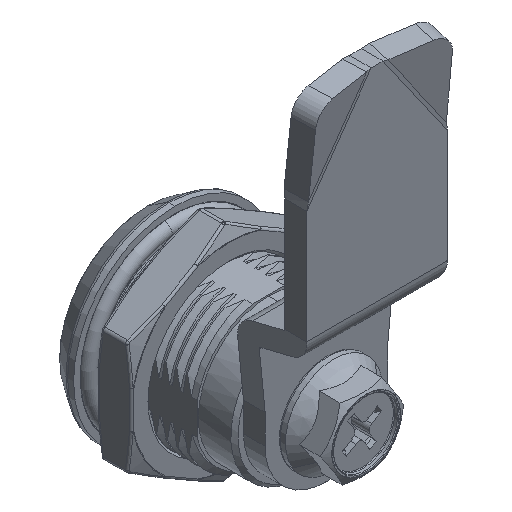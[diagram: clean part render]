
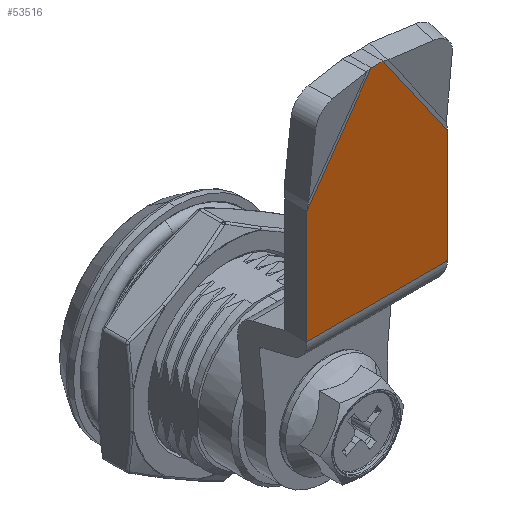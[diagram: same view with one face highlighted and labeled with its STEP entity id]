
A CAD part, isometric view. The second image highlights one B-rep face of the part: STEP entity #53516.
In plain terms, the highlighted planar face has unit normal (0, -1, 0).
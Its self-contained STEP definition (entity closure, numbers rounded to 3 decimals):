
#9 = ORIENTED_EDGE ( 'NONE', *, *, #35768, .F. ) ;
#297 = VERTEX_POINT ( 'NONE', #24300 ) ;
#2014 = CARTESIAN_POINT ( 'NONE',  ( 45., -3., -0.824 ) ) ;
#2878 = LINE ( 'NONE', #6426, #28402 ) ;
#3013 = ORIENTED_EDGE ( 'NONE', *, *, #50296, .T. ) ;
#6195 = CARTESIAN_POINT ( 'NONE',  ( 16.621, -3., 9.75 ) ) ;
#6426 = CARTESIAN_POINT ( 'NONE',  ( 45., -3., 9.75 ) ) ;
#7249 = DIRECTION ( 'NONE',  ( -1., 0., 0. ) ) ;
#7469 = VERTEX_POINT ( 'NONE', #13669 ) ;
#8007 = CARTESIAN_POINT ( 'NONE',  ( 32.252, -3., 9.75 ) ) ;
#8055 = CARTESIAN_POINT ( 'NONE',  ( 45., -3., 9.75 ) ) ;
#9085 = EDGE_CURVE ( 'NONE', #7469, #22894, #36734, .T. ) ;
#11340 = CARTESIAN_POINT ( 'NONE',  ( 45., -3., -9.75 ) ) ;
#11950 = PLANE ( 'NONE',  #39371 ) ;
#13669 = CARTESIAN_POINT ( 'NONE',  ( 45., -3., 0.824 ) ) ;
#14299 = VECTOR ( 'NONE', #44636, 1000. ) ;
#15441 = DIRECTION ( 'NONE',  ( 0., 0., -1. ) ) ;
#16846 = DIRECTION ( 'NONE',  ( 0., -1., 0. ) ) ;
#17292 = CARTESIAN_POINT ( 'NONE',  ( 49.968, -3., 2.655 ) ) ;
#19511 = LINE ( 'NONE', #11340, #14299 ) ;
#21501 = VECTOR ( 'NONE', #33951, 1000. ) ;
#22034 = DIRECTION ( 'NONE',  ( 0., 0., -1. ) ) ;
#22894 = VERTEX_POINT ( 'NONE', #2014 ) ;
#22912 = VECTOR ( 'NONE', #22034, 1000. ) ;
#23514 = ORIENTED_EDGE ( 'NONE', *, *, #31872, .T. ) ;
#24300 = CARTESIAN_POINT ( 'NONE',  ( 32.252, -3., -9.75 ) ) ;
#24511 = FACE_OUTER_BOUND ( 'NONE', #24597, .T. ) ;
#24597 = EDGE_LOOP ( 'NONE', ( #50406, #3013, #23514, #37371, #39239, #9 ) ) ;
#27104 = DIRECTION ( 'NONE',  ( -0.819, 0., 0.574 ) ) ;
#27388 = VERTEX_POINT ( 'NONE', #44625 ) ;
#28402 = VECTOR ( 'NONE', #7249, 1000. ) ;
#28564 = EDGE_CURVE ( 'NONE', #297, #27388, #19511, .T. ) ;
#29440 = EDGE_CURVE ( 'NONE', #41449, #27388, #34327, .T. ) ;
#29908 = VERTEX_POINT ( 'NONE', #8007 ) ;
#30379 = LINE ( 'NONE', #17292, #21501 ) ;
#31872 = EDGE_CURVE ( 'NONE', #29908, #41449, #2878, .T. ) ;
#33951 = DIRECTION ( 'NONE',  ( -0.819, 0., -0.574 ) ) ;
#34327 = LINE ( 'NONE', #6195, #22912 ) ;
#35144 = CARTESIAN_POINT ( 'NONE',  ( 16.621, -3., 9.75 ) ) ;
#35562 = LINE ( 'NONE', #39391, #52406 ) ;
#35768 = EDGE_CURVE ( 'NONE', #22894, #297, #30379, .T. ) ;
#36734 = LINE ( 'NONE', #8055, #36781 ) ;
#36781 = VECTOR ( 'NONE', #15441, 1000. ) ;
#37371 = ORIENTED_EDGE ( 'NONE', *, *, #29440, .T. ) ;
#39239 = ORIENTED_EDGE ( 'NONE', *, *, #28564, .F. ) ;
#39371 = AXIS2_PLACEMENT_3D ( 'NONE', #45515, #16846, #45783 ) ;
#39391 = CARTESIAN_POINT ( 'NONE',  ( 40.806, -3., 3.76 ) ) ;
#41449 = VERTEX_POINT ( 'NONE', #35144 ) ;
#44625 = CARTESIAN_POINT ( 'NONE',  ( 16.621, -3., -9.75 ) ) ;
#44636 = DIRECTION ( 'NONE',  ( -1., 0., 0. ) ) ;
#45515 = CARTESIAN_POINT ( 'NONE',  ( 45., -3., 9.75 ) ) ;
#45783 = DIRECTION ( 'NONE',  ( 1., 0., 0. ) ) ;
#50296 = EDGE_CURVE ( 'NONE', #7469, #29908, #35562, .T. ) ;
#50406 = ORIENTED_EDGE ( 'NONE', *, *, #9085, .F. ) ;
#52406 = VECTOR ( 'NONE', #27104, 1000. ) ;
#53516 = ADVANCED_FACE ( 'NONE', ( #24511 ), #11950, .T. ) ;
